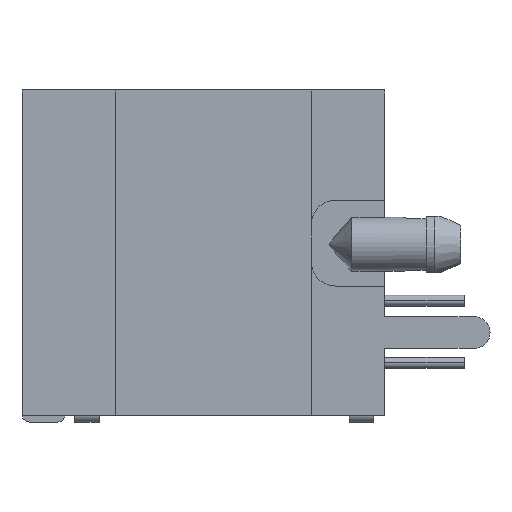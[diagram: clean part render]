
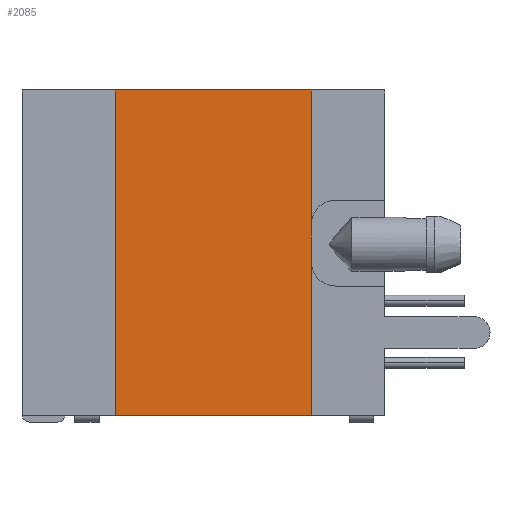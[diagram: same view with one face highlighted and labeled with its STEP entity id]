
A CAD part, left-side view. The second image highlights one B-rep face of the part: STEP entity #2085.
In plain terms, the highlighted planar face has unit normal (-1, 0.006, 0).
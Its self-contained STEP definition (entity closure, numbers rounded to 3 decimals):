
#657 = ORIENTED_EDGE ( 'NONE', *, *, #2477, .F. ) ;
#672 = ORIENTED_EDGE ( 'NONE', *, *, #2531, .F. ) ;
#674 = ORIENTED_EDGE ( 'NONE', *, *, #2476, .F. ) ;
#675 = ORIENTED_EDGE ( 'NONE', *, *, #2493, .T. ) ;
#684 = ORIENTED_EDGE ( 'NONE', *, *, #2479, .T. ) ;
#712 = ORIENTED_EDGE ( 'NONE', *, *, #2513, .T. ) ;
#2085 = ADVANCED_FACE ( 'NONE', ( #8627 ), #8662, .F. ) ;
#2476 = EDGE_CURVE ( 'NONE', #5516, #5584, #9798, .T. ) ;
#2477 = EDGE_CURVE ( 'NONE', #5502, #5489, #9813, .T. ) ;
#2479 = EDGE_CURVE ( 'NONE', #5516, #5483, #9788, .T. ) ;
#2493 = EDGE_CURVE ( 'NONE', #5483, #5489, #9839, .T. ) ;
#2513 = EDGE_CURVE ( 'NONE', #5502, #5499, #9895, .T. ) ;
#2531 = EDGE_CURVE ( 'NONE', #5584, #5499, #9954, .T. ) ;
#2677 = VECTOR ( 'NONE', #9786, 1000. ) ;
#2688 = VECTOR ( 'NONE', #9811, 1000. ) ;
#2693 = VECTOR ( 'NONE', #9903, 1000. ) ;
#2694 = VECTOR ( 'NONE', #9855, 1000. ) ;
#2721 = VECTOR ( 'NONE', #9829, 1000. ) ;
#2734 = VECTOR ( 'NONE', #9973, 1000. ) ;
#3397 = EDGE_LOOP ( 'NONE', ( #657, #712, #672, #674, #684, #675 ) ) ;
#4795 = AXIS2_PLACEMENT_3D ( 'NONE', #8628, #8647, #8658 ) ;
#5483 = VERTEX_POINT ( 'NONE', #9221 ) ;
#5489 = VERTEX_POINT ( 'NONE', #9215 ) ;
#5499 = VERTEX_POINT ( 'NONE', #9222 ) ;
#5502 = VERTEX_POINT ( 'NONE', #9201 ) ;
#5516 = VERTEX_POINT ( 'NONE', #9205 ) ;
#5584 = VERTEX_POINT ( 'NONE', #9296 ) ;
#8627 = FACE_OUTER_BOUND ( 'NONE', #3397, .T. ) ;
#8628 = CARTESIAN_POINT ( 'NONE',  ( -6.451, -11.61, -13.266 ) ) ;
#8647 = DIRECTION ( 'NONE',  ( 1., -0.006, 0. ) ) ;
#8658 = DIRECTION ( 'NONE',  ( 0.006, 1., 0. ) ) ;
#8662 = PLANE ( 'NONE',  #4795 ) ;
#9201 = CARTESIAN_POINT ( 'NONE',  ( -6.45, -11.45, -5.2 ) ) ;
#9205 = CARTESIAN_POINT ( 'NONE',  ( -6.4, -3.45, -13. ) ) ;
#9215 = CARTESIAN_POINT ( 'NONE',  ( -6.45, -11.45, -6.7 ) ) ;
#9221 = CARTESIAN_POINT ( 'NONE',  ( -6.45, -11.45, -13. ) ) ;
#9222 = CARTESIAN_POINT ( 'NONE',  ( -6.45, -11.45, 0.3 ) ) ;
#9296 = CARTESIAN_POINT ( 'NONE',  ( -6.4, -3.45, 0.3 ) ) ;
#9786 = DIRECTION ( 'NONE',  ( -0.006, -1., 0. ) ) ;
#9788 = LINE ( 'NONE', #9809, #2677 ) ;
#9797 = CARTESIAN_POINT ( 'NONE',  ( -6.4, -3.45, -13.266 ) ) ;
#9798 = LINE ( 'NONE', #9797, #2688 ) ;
#9806 = CARTESIAN_POINT ( 'NONE',  ( -6.45, -11.45, -13.266 ) ) ;
#9809 = CARTESIAN_POINT ( 'NONE',  ( -6.4, -3.45, -13. ) ) ;
#9811 = DIRECTION ( 'NONE',  ( 0., 0., 1. ) ) ;
#9813 = LINE ( 'NONE', #9806, #2721 ) ;
#9829 = DIRECTION ( 'NONE',  ( 0., 0., -1. ) ) ;
#9839 = LINE ( 'NONE', #9844, #2694 ) ;
#9844 = CARTESIAN_POINT ( 'NONE',  ( -6.45, -11.45, 0.566 ) ) ;
#9855 = DIRECTION ( 'NONE',  ( 0., 0., 1. ) ) ;
#9895 = LINE ( 'NONE', #9915, #2693 ) ;
#9903 = DIRECTION ( 'NONE',  ( 0., 0., 1. ) ) ;
#9915 = CARTESIAN_POINT ( 'NONE',  ( -6.45, -11.45, 0.566 ) ) ;
#9942 = CARTESIAN_POINT ( 'NONE',  ( -6.4, -3.45, 0.3 ) ) ;
#9954 = LINE ( 'NONE', #9942, #2734 ) ;
#9973 = DIRECTION ( 'NONE',  ( -0.006, -1., 0. ) ) ;
